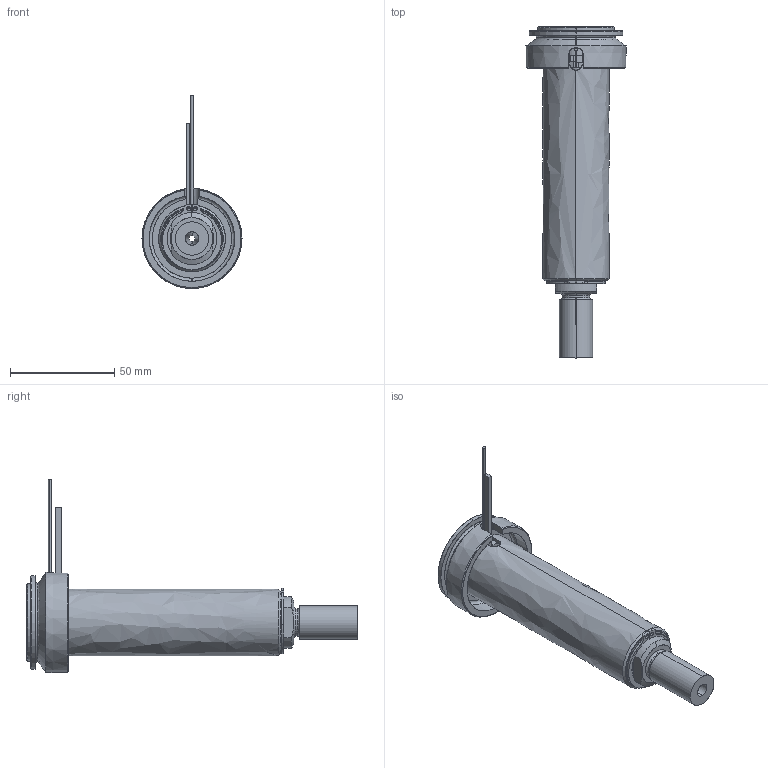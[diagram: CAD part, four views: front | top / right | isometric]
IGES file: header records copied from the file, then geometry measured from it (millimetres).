
Start section: SolidWorks IGES file using analytic representation for surfaces
Global section: file name: C:\Documents and Settings\ws-20\Desktop\TEMPORANEA\UGBE5003-M-A-P-3 [Ød-3.0 P-25 ØC-12].IGS; native system: SolidWorks 2012; preprocessor: SolidWorks 2012; author: ws-20; date: 120306.145502; units: millimetre
Bounding box: 48 x 159.25 x 92.62 mm (x, y, z)
Surface area: 51016.1 mm2 (no closed solid volume)
Topology: 0 solids, 0 shells, 108 faces, 2026 edges, 2026 vertices
Faces by surface type: revolution 63, bspline 45
